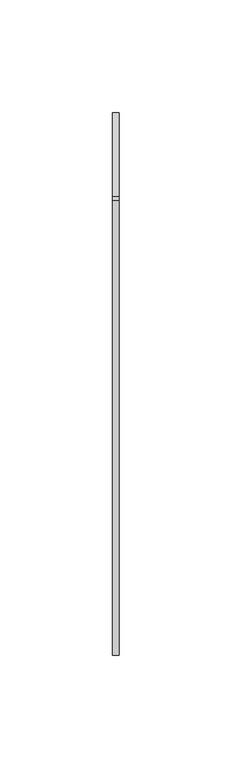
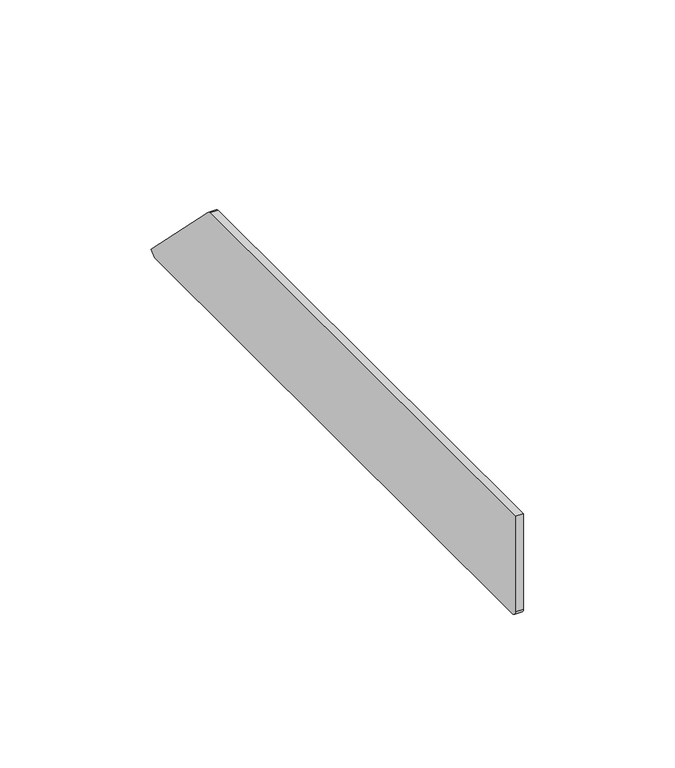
"""IFC4 building model written with IfcOpenShell, lengths in millimetres: cable carrier fitting geometry, Electrical_Installation_Hager_End-Piece : Electrical_Installation_Hager_End-Piece."""

from ifc_helpers import new_model, si_unit, point, frame, frame_2d, origin, place, context, project, spatial, polyline, circle_curve, trimmed, segment, composite_curve, outline, extrude, source, transform, mapped, element, save


def cable_carrier_fitting_9fda98ba(model_context):
    return source(origin(), model_context, "Body", "SweptSolid", [
        extrude(outline(composite_curve([segment(polyline([(-100.0, -18.0), (-100.0, 20.5), (101.7124549, 20.5)]), True, "CONTINUOUS"), segment(trimmed(circle_curve(frame_2d((100.5004738, 16.6648514)), 4.0220969), [point((101.7124549, 20.5))], [point((103.5142136, 19.3284271))], False, "CARTESIAN"), True, "CONTINUOUS"), segment(polyline([(103.5142136, 19.3284271), (140.7213203, -17.8786797), (138.6, -20.0), (-98.0, -20.0)]), True, "CONTINUOUS"), segment(trimmed(circle_curve(frame_2d((-98.0, -18.0)), 2.0), [point((-98.0, -20.0))], [point((-100.0, -18.0))], False, "CARTESIAN"), True, "CONTINUOUS")], self_intersect=False)), frame((0.0, 0.0, 0.0), z_axis=(1.0, 0.0, 0.0), x_axis=(0.0, 1.0, 0.0)), (0.0, 0.0, 1.0), 3.0),
    ])


if __name__ == "__main__":
    model = new_model("IFC4")
    model_context = context("Model", 3, world=origin())
    ifc_project = project(units=[si_unit("LENGTHUNIT", "METRE", prefix="MILLI")], contexts=[model_context])
    site = spatial("IfcSite", under=ifc_project)
    building = spatial("IfcBuilding", under=site)
    placement = place(None, origin())
    cable_carrier_fitting_shape = cable_carrier_fitting_9fda98ba(model_context)
    element("IfcCableCarrierFitting", 1, ObjectType="Electrical_Installation_Hager_End-Piece : Electrical_Installation_Hager_End-Piece", at=placement, inside=building, context=model_context, shape_type="MappedRepresentation", body=[
        mapped(cable_carrier_fitting_shape, transform((0.0, 0.0, 0.0), x_axis=(1.0, 0.0, 0.0), y_axis=(0.0, 1.0, 0.0), z_axis=(0.0, 0.0, 1.0))),
    ])
    save(model, "model.ifc")
